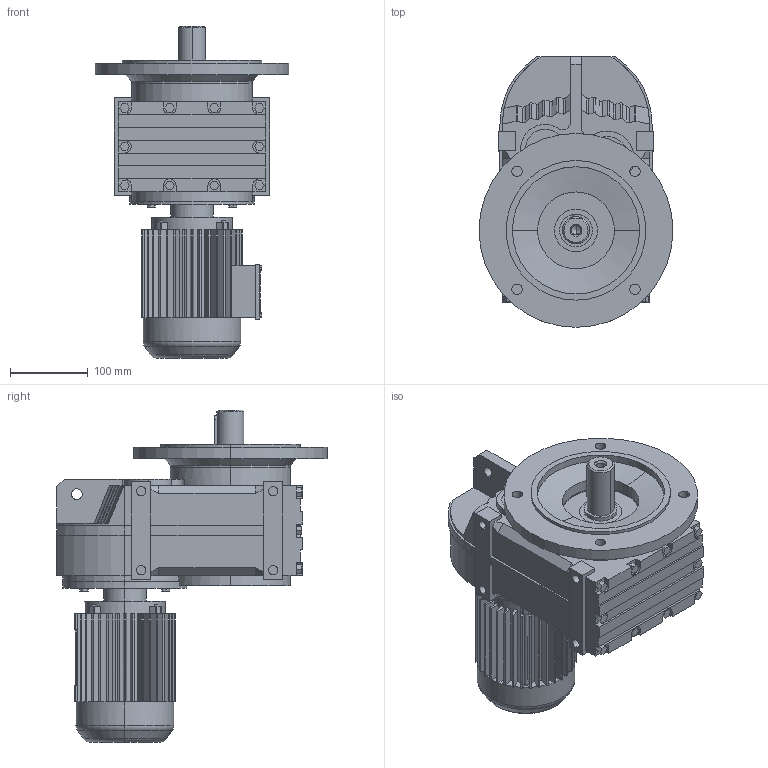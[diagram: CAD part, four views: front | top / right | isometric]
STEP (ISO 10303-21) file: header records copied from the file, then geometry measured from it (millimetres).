
FILE_DESCRIPTION(('Open CASCADE Model'),'2;1');
FILE_NAME('Open CASCADE Shape Model','2018-09-12T10:30:31',('Author'),( 'Open CASCADE'),'Open CASCADE STEP processor 6.3','Open CASCADE 6.3' ,'Unknown');
FILE_SCHEMA(('AUTOMOTIVE_DESIGN_CC2 { 1 2 10303 214 -1 1 5 4 }'));
Length unit declared in the file: millimetre
Products named in the file (5): 31_FF57-Y63S; FA27‵157_57.step; 萇儂_160_Y63S.step; す瑩妗陑粣F_57.step; 楊擘F_57.step
Assembly tree (4 placements, depth 2):
  31_FF57-Y63S
    FA27‵157_57.step
    萇儂_160_Y63S.step
    す瑩妗陑粣F_57.step
    楊擘F_57.step
Bounding box: 250 x 349 x 428 mm (x, y, z)
Volume: 10118798.2 mm3; surface area: 684648.8 mm2
Topology: 4 solids, 4 shells, 817 faces, 2152 edges, 1396 vertices
Faces by surface type: plane 570, cylinder 215, bspline 16, cone 12, torus 4
Entity records: 55199 total; most frequent: CARTESIAN_POINT 14043, DIRECTION 7167, ORIENTED_EDGE 4300, PCURVE 4300, DEFINITIONAL_REPRESENTATION 4300, LINE 3965, VECTOR 3965, EDGE_CURVE 2150
